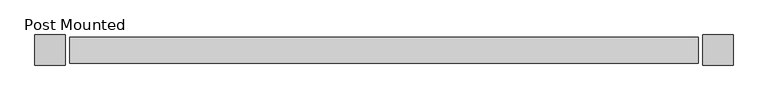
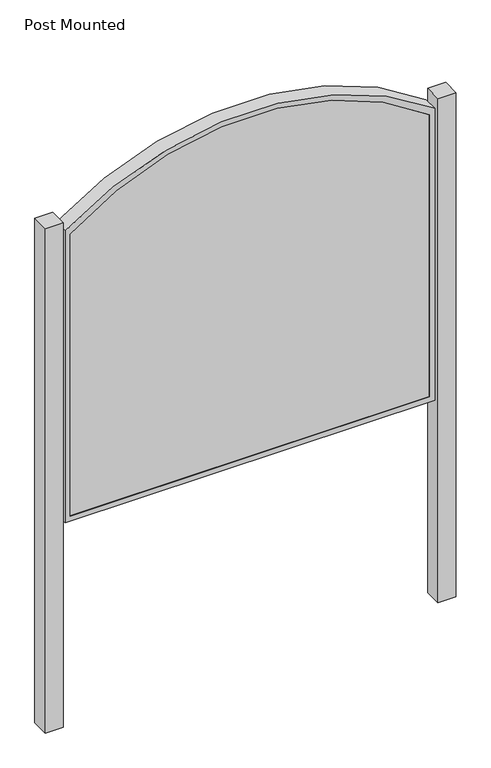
"""IFC4 building model written with IfcOpenShell, lengths in millimetres: proxy geometry."""

from ifc_helpers import new_model, si_unit, point, frame, frame_2d, origin, place, context, project, spatial, polyline, circle_curve, trimmed, segment, composite_curve, outline, extrude, source, transform, mapped, element, save


def post_mounted_36181113(model_context):
    return source(origin(), model_context, "Body", "SweptSolid", [
        extrude(outline(composite_curve([segment(polyline([(1803.4, -841.557955), (330.2, -841.557955), (330.2, -838.382955), (1802.9842172, -838.382955)]), True, "CONTINUOUS"), segment(trimmed(circle_curve(frame_2d((655.0311334, 47.442045)), 1449.9938666), [point((1802.9842172, -838.382955))], [point((1802.9842172, 933.267045))], True, "CARTESIAN"), True, "CONTINUOUS"), segment(polyline([(1802.9842172, 933.267045), (330.2, 933.267045), (330.2, 936.442045), (1803.4, 936.442045)]), True, "CONTINUOUS"), segment(trimmed(circle_curve(frame_2d((659.3416674, 47.442045)), 1448.8583328), [point((1803.4, 936.442045))], [point((1803.4, -841.557955))], False, "CARTESIAN"), True, "CONTINUOUS")], self_intersect=False)), frame((0.0, -31.75, 0.0), z_axis=(0.0, 1.0, 0.0), x_axis=(0.0, 0.0, 1.0)), (0.0, 0.0, 1.0), 63.5),
        extrude(outline(composite_curve([segment(polyline([(1803.4, -841.557955), (330.2, -841.557955), (330.2, 936.442045), (1803.4, 936.442045)]), True, "CONTINUOUS"), segment(trimmed(circle_curve(frame_2d((659.341666, 47.442045)), 1448.8583339), [point((1803.4, 936.442045))], [point((1803.4, -841.557955))], False, "CARTESIAN"), True, "CONTINUOUS")], self_intersect=False)), frame((0.0, -34.925, 0.0), z_axis=(0.0, 1.0, 0.0), x_axis=(0.0, 0.0, 1.0)), (0.0, 0.0, 1.0), 3.175),
        extrude(outline(composite_curve([segment(polyline([(1803.4, -841.557955), (330.2, -841.557955), (330.2, 936.442045), (1803.4, 936.442045)]), True, "CONTINUOUS"), segment(trimmed(circle_curve(frame_2d((659.341666, 47.442045)), 1448.8583339), [point((1803.4, 936.442045))], [point((1803.4, -841.557955))], False, "CARTESIAN"), True, "CONTINUOUS")], self_intersect=False)), frame((0.0, 31.75, 0.0), z_axis=(0.0, 1.0, 0.0), x_axis=(0.0, 0.0, 1.0)), (0.0, 0.0, 1.0), 3.175),
        extrude(outline(composite_curve([segment(polyline([(1828.8, -866.957955), (304.8, -866.957955), (304.8, 961.842045), (1828.8, 961.842045)]), True, "CONTINUOUS"), segment(trimmed(circle_curve(frame_2d((609.6016277, 47.442045)), 1523.9986978), [point((1828.8, 961.842045))], [point((1828.8, -866.957955))], False, "CARTESIAN"), True, "CONTINUOUS")], self_intersect=False), holes=[composite_curve([segment(trimmed(circle_curve(frame_2d((659.341666, 47.442045)), 1448.8583339), [point((1803.4, -841.557955))], [point((1803.4, 936.442045))], True, "CARTESIAN"), True, "CONTINUOUS"), segment(polyline([(1803.4, 936.442045), (330.2, 936.442045), (330.2, -841.557955), (1803.4, -841.557955)]), True, "CONTINUOUS")], self_intersect=False)]), frame((0.0, -38.1, 0.0), z_axis=(0.0, 1.0, 0.0), x_axis=(0.0, 0.0, 1.0)), (0.0, 0.0, 1.0), 76.2),
        extrude(outline(polyline([(1063.442045, 44.45), (1063.442045, -44.45), (974.542045, -44.45), (974.542045, 44.45), (1063.442045, 44.45)])), frame((0.0, 0.0, -755.65), z_axis=(0.0, 0.0, 1.0), x_axis=(1.0, 0.0, 0.0)), (0.0, 0.0, 1.0), 2635.25),
        extrude(outline(polyline([(-879.657955, 44.45), (-879.657955, -44.45), (-968.557955, -44.45), (-968.557955, 44.45), (-879.657955, 44.45)])), frame((0.0, 0.0, -755.65), z_axis=(0.0, 0.0, 1.0), x_axis=(1.0, 0.0, 0.0)), (0.0, 0.0, 1.0), 2635.25),
        extrude(outline(composite_curve([segment(polyline([(1803.4, -841.557955), (330.2, -841.557955), (330.2, 936.442045), (1803.4, 936.442045)]), True, "CONTINUOUS"), segment(trimmed(circle_curve(frame_2d((659.341666, 47.442045)), 1448.8583339), [point((1803.4, 936.442045))], [point((1803.4, -841.557955))], False, "CARTESIAN"), True, "CONTINUOUS")], self_intersect=False)), frame((0.0, -34.925, 0.0), z_axis=(0.0, 1.0, 0.0), x_axis=(0.0, 0.0, 1.0)), (0.0, 0.0, 1.0), 69.85),
    ])


if __name__ == "__main__":
    model = new_model("IFC4")
    model_context = context("Model", 3, world=origin())
    ifc_project = project(units=[si_unit("LENGTHUNIT", "METRE", prefix="MILLI")], contexts=[model_context])
    site = spatial("IfcSite", under=ifc_project)
    building = spatial("IfcBuilding", under=site)
    placement = place(None, origin())
    post_mounted_shape = post_mounted_36181113(model_context)
    element("IfcBuildingElementProxy", 1, Name="Post Mounted : Arch Top Double Layer 5x6 w/ LED on 4\" Direct Burried Post", ObjectType="Post Mounted : Arch Top Double Layer 5x6 w/ LED on 4\" Direct Burried Post", at=placement, inside=building, context=model_context, shape_type="MappedRepresentation", body=[
        mapped(post_mounted_shape, transform((0.0, 0.0, 0.0), x_axis=(1.0, 0.0, 0.0), y_axis=(0.0, 1.0, 0.0), z_axis=(0.0, 0.0, 1.0))),
    ])
    save(model, "model.ifc")
